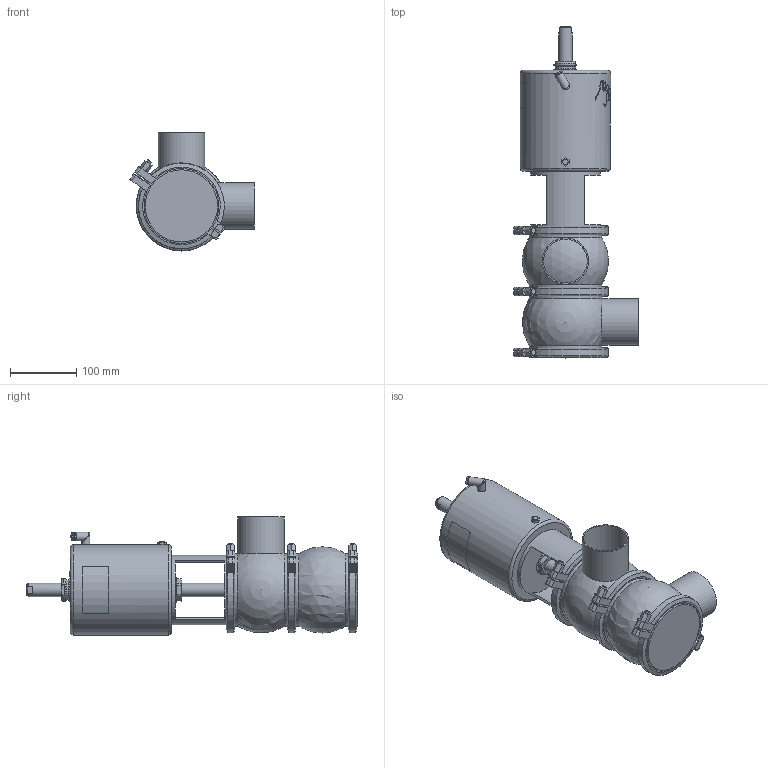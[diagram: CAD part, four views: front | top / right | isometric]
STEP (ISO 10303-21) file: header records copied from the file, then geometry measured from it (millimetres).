
FILE_DESCRIPTION (( 'STEP AP214' ), '1' );
FILE_NAME ('INNOVA M D W DIN 065 T3 AS NC_10.241.16.0010.STEP', '2024-08-07T07:56:04', ( '' ), ( '' ), 'SwSTEP 2.0', 'SolidWorks 2023', '' );
FILE_SCHEMA (( 'AUTOMOTIVE_DESIGN' ));
Length unit declared in the file: millimetre
Products named in the file (6): INNOVA M D W DIN 065 T3 AS NC_10.241.16.0010; 10.240.15.0014_T3 AS P180; 10.241.15.0001_DIN 065; 10.240.15.0006_DIN 065; 10.240.15.0010_DN 065; 10.240.15.0001_DN 065
Assembly tree (8 placements, depth 2):
  INNOVA M D W DIN 065 T3 AS NC_10.241.16.0010
    10.240.15.0006_DIN 065  x2
    10.240.15.0010_DN 065
    10.240.15.0014_T3 AS P180
    10.240.15.0001_DN 065  x3
    10.241.15.0001_DIN 065
Bounding box: 188.15 x 500.5 x 178 mm (x, y, z)
Volume: 4783307.4 mm3; surface area: 429720.9 mm2
Topology: 9 solids, 9 shells, 461 faces, 1213 edges, 791 vertices
Faces by surface type: plane 227, cylinder 110, bspline 80, cone 36, sphere 4, torus 4
Full cylindrical faces by diameter (mm): 6.15 x1, 8 x7, 8.5 x1, 10.5 x1, 12.5 x3, 16 x1, 20 x2, 31 x1, 34.5 x2, 36.5 x1, 66 x2, 70 x2, 105 x1, 109 x5, 121 x6, 136 x1
Entity records: 20400 total; most frequent: CARTESIAN_POINT 11274, ORIENTED_EDGE 1594, DIRECTION 1209, EDGE_CURVE 797, VERTEX_POINT 548, AXIS2_PLACEMENT_3D 460, EDGE_LOOP 401, FACE_OUTER_BOUND 361
